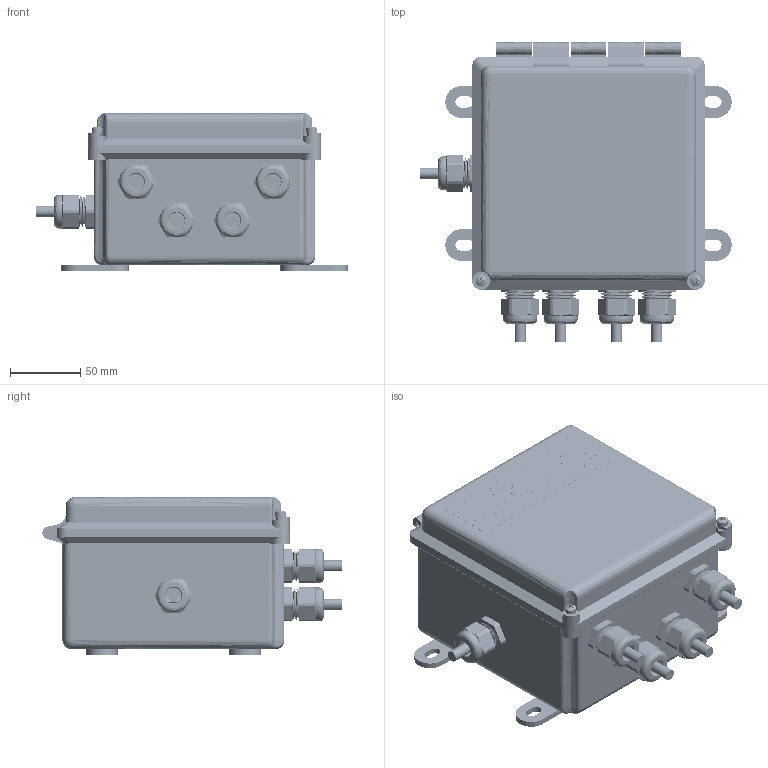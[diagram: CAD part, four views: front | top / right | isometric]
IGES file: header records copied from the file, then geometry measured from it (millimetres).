
Start section: SolidWorks IGES file using analytic representation for surfaces
Global section: file name: C:\0_Work\SolidWorks\HI 6020 Series\HI6020IT-FG1.IGS; native system: SolidWorks 2020; preprocessor: SolidWorks 2020; author: vach01; date: 210610.125004; units: inch
Bounding box: 220.99 x 212.4 x 112.3 mm (x, y, z)
Surface area: 405352.3 mm2 (no closed solid volume)
Topology: 0 solids, 0 shells, 15421 faces, 148091 edges, 147972 vertices
Faces by surface type: bspline 11912, revolution 3509
